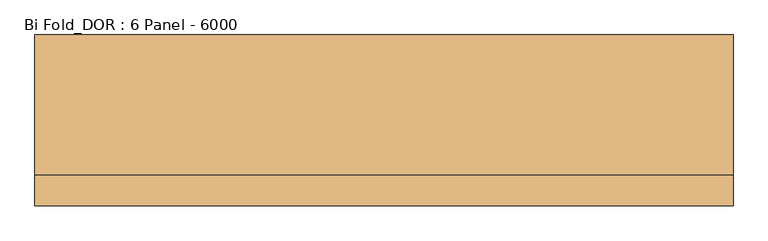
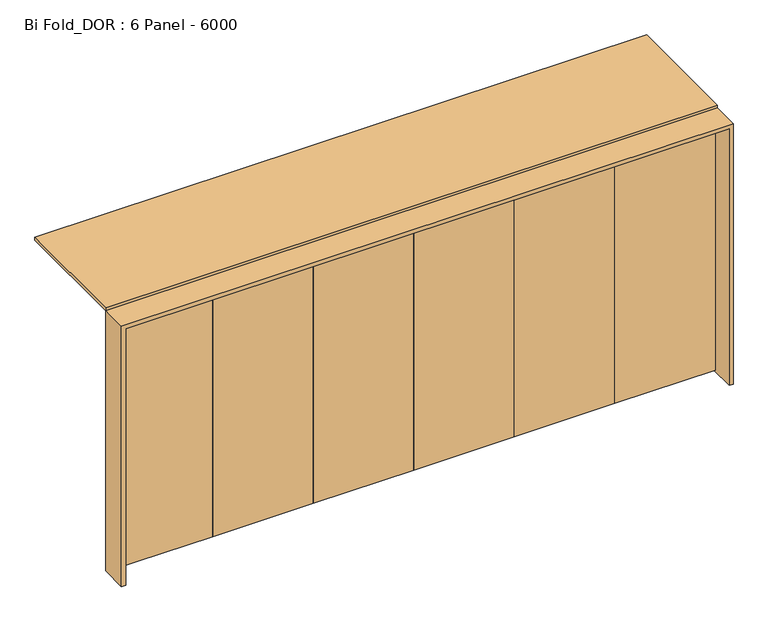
"""IFC4 building model written with IfcOpenShell, lengths in millimetres: door geometry, Bi Fold_DOR : 6 Panel - 6000."""

from ifc_helpers import new_model, si_unit, frame, origin, place, context, project, spatial, polyline, outline, extrude, source, transform, mapped, element, save


def bi_fold_dor_6_panel_6000_f2409742(model_context):
    return source(origin(), model_context, "Body", "SweptSolid", [
        extrude(outline(polyline([(2960.0, 95.0), (1973.3333333, 95.0), (1973.3333333, 135.0), (2960.0, 135.0), (2960.0, 95.0)])), frame((0.0, 0.0, 20.0), z_axis=(0.0, 0.0, 1.0), x_axis=(1.0, 0.0, 0.0)), (0.0, 0.0, 1.0), 2640.0),
        extrude(outline(polyline([(1973.3333333, 95.0), (986.6666667, 95.0), (986.6666667, 135.0), (1973.3333333, 135.0), (1973.3333333, 95.0)])), frame((0.0, 0.0, 20.0), z_axis=(0.0, 0.0, 1.0), x_axis=(1.0, 0.0, 0.0)), (0.0, 0.0, 1.0), 2640.0),
        extrude(outline(polyline([(986.6666667, 95.0), (0.0, 95.0), (0.0, 135.0), (986.6666667, 135.0), (986.6666667, 95.0)])), frame((0.0, 0.0, 20.0), z_axis=(0.0, 0.0, 1.0), x_axis=(1.0, 0.0, 0.0)), (0.0, 0.0, 1.0), 2640.0),
        extrude(outline(polyline([(0.0, 95.0), (-986.6666667, 95.0), (-986.6666667, 135.0), (0.0, 135.0), (0.0, 95.0)])), frame((0.0, 0.0, 20.0), z_axis=(0.0, 0.0, 1.0), x_axis=(1.0, 0.0, 0.0)), (0.0, 0.0, 1.0), 2640.0),
        extrude(outline(polyline([(-986.6666667, 95.0), (-1973.3333333, 95.0), (-1973.3333333, 135.0), (-986.6666667, 135.0), (-986.6666667, 95.0)])), frame((0.0, 0.0, 20.0), z_axis=(0.0, 0.0, 1.0), x_axis=(1.0, 0.0, 0.0)), (0.0, 0.0, 1.0), 2640.0),
        extrude(outline(polyline([(-1973.3333333, 95.0), (-2960.0, 95.0), (-2960.0, 135.0), (-1973.3333333, 135.0), (-1973.3333333, 95.0)])), frame((0.0, 0.0, 20.0), z_axis=(0.0, 0.0, 1.0), x_axis=(1.0, 0.0, 0.0)), (0.0, 0.0, 1.0), 2640.0),
        extrude(outline(polyline([(0.0, 2960.0), (0.0, 3000.0), (2700.0, 3000.0), (2700.0, -3000.0), (0.0, -3000.0), (0.0, -2960.0), (2660.0, -2960.0), (2660.0, 2960.0), (0.0, 2960.0)])), frame((0.0, -135.0, 0.0), z_axis=(0.0, 1.0, 0.0), x_axis=(0.0, 0.0, 1.0)), (0.0, 0.0, 1.0), 270.0),
        extrude(outline(polyline([(3000.0, 135.0), (-3000.0, 135.0), (-3000.0, 1335.0), (3000.0, 1335.0), (3000.0, 135.0)])), frame((0.0, 0.0, 2700.0), z_axis=(0.0, 0.0, 1.0), x_axis=(1.0, 0.0, 0.0)), (0.0, 0.0, 1.0), 30.0),
    ])


if __name__ == "__main__":
    model = new_model("IFC4")
    model_context = context("Model", 3, world=origin())
    ifc_project = project(units=[si_unit("LENGTHUNIT", "METRE", prefix="MILLI")], contexts=[model_context])
    site = spatial("IfcSite", under=ifc_project)
    building = spatial("IfcBuilding", under=site)
    placement = place(None, origin())
    bi_fold_dor_6_panel_6000_shape = bi_fold_dor_6_panel_6000_f2409742(model_context)
    element("IfcDoor", 1, ObjectType="Bi Fold_DOR : 6 Panel - 6000", at=placement, inside=building, context=model_context, shape_type="MappedRepresentation", body=[
        mapped(bi_fold_dor_6_panel_6000_shape, transform((0.0, 0.0, 0.0), x_axis=(1.0, 0.0, 0.0), y_axis=(0.0, 1.0, 0.0), z_axis=(0.0, 0.0, 1.0))),
    ])
    save(model, "model.ifc")
